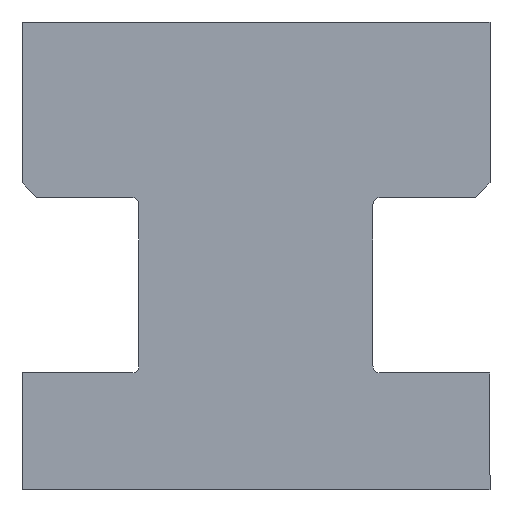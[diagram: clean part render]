
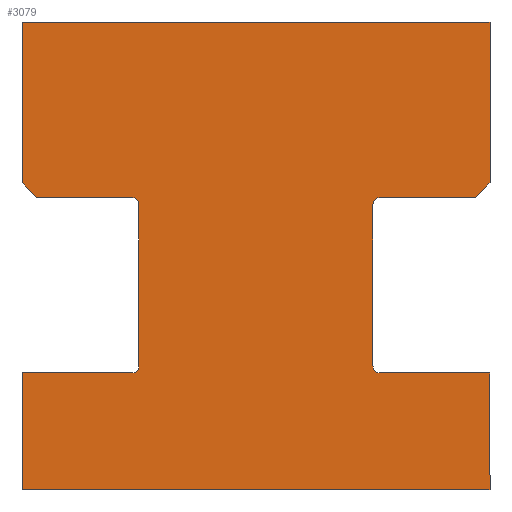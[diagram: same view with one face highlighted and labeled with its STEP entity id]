
A CAD part, front view. The second image highlights one B-rep face of the part: STEP entity #3079.
In plain terms, the highlighted planar face has unit normal (0, -1, 0).
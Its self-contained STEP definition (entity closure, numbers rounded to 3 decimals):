
#30 = CARTESIAN_POINT ( 'NONE',  ( -8., -40., 4. ) ) ;
#61 = LINE ( 'NONE', #2217, #1289 ) ;
#73 = CARTESIAN_POINT ( 'NONE',  ( 8., -40., 16. ) ) ;
#168 = LINE ( 'NONE', #4234, #2457 ) ;
#224 = ORIENTED_EDGE ( 'NONE', *, *, #443, .T. ) ;
#274 = DIRECTION ( 'NONE',  ( 0., 0., -1. ) ) ;
#281 = EDGE_CURVE ( 'NONE', #2041, #2152, #3352, .T. ) ;
#332 = VECTOR ( 'NONE', #1572, 1000. ) ;
#366 = EDGE_CURVE ( 'NONE', #2997, #3498, #3070, .T. ) ;
#418 = VECTOR ( 'NONE', #2425, 1000. ) ;
#427 = CARTESIAN_POINT ( 'NONE',  ( 8., -40., 4. ) ) ;
#431 = VERTEX_POINT ( 'NONE', #1586 ) ;
#443 = EDGE_CURVE ( 'NONE', #4101, #599, #5027, .T. ) ;
#464 = EDGE_CURVE ( 'NONE', #5421, #431, #6343, .T. ) ;
#481 = CARTESIAN_POINT ( 'NONE',  ( 4.25, -40., 9.75 ) ) ;
#542 = CARTESIAN_POINT ( 'NONE',  ( 8., -40., 10.5 ) ) ;
#548 = ORIENTED_EDGE ( 'NONE', *, *, #3443, .T. ) ;
#583 = VERTEX_POINT ( 'NONE', #6286 ) ;
#599 = VERTEX_POINT ( 'NONE', #794 ) ;
#603 = CARTESIAN_POINT ( 'NONE',  ( -8., -40., 4. ) ) ;
#724 = CARTESIAN_POINT ( 'NONE',  ( -8., -40., 0. ) ) ;
#794 = CARTESIAN_POINT ( 'NONE',  ( -8., -40., 10.5 ) ) ;
#796 = ORIENTED_EDGE ( 'NONE', *, *, #6504, .T. ) ;
#836 = VERTEX_POINT ( 'NONE', #542 ) ;
#898 = PLANE ( 'NONE',  #4036 ) ;
#939 = VERTEX_POINT ( 'NONE', #4830 ) ;
#942 = CARTESIAN_POINT ( 'NONE',  ( -4., -40., 9.75 ) ) ;
#1055 = EDGE_CURVE ( 'NONE', #431, #3094, #61, .T. ) ;
#1067 = CARTESIAN_POINT ( 'NONE',  ( -7.5, -40., 10. ) ) ;
#1092 = LINE ( 'NONE', #73, #5505 ) ;
#1181 = VECTOR ( 'NONE', #5906, 1000. ) ;
#1209 = CARTESIAN_POINT ( 'NONE',  ( 4.25, -40., 4. ) ) ;
#1232 = LINE ( 'NONE', #724, #5836 ) ;
#1289 = VECTOR ( 'NONE', #4624, 1000. ) ;
#1401 = CIRCLE ( 'NONE', #6555, 0.25 ) ;
#1435 = CARTESIAN_POINT ( 'NONE',  ( 7.5, -40., 10. ) ) ;
#1445 = DIRECTION ( 'NONE',  ( 0., 1., 0. ) ) ;
#1475 = CARTESIAN_POINT ( 'NONE',  ( 8., -40., 16. ) ) ;
#1495 = CARTESIAN_POINT ( 'NONE',  ( -4., -40., 4.25 ) ) ;
#1572 = DIRECTION ( 'NONE',  ( 0.707, 0., 0.707 ) ) ;
#1586 = CARTESIAN_POINT ( 'NONE',  ( 4.25, -40., 10. ) ) ;
#1593 = DIRECTION ( 'NONE',  ( 0., 0., 1. ) ) ;
#1607 = VECTOR ( 'NONE', #2471, 1000. ) ;
#1608 = CARTESIAN_POINT ( 'NONE',  ( 8., -40., 0. ) ) ;
#1618 = VECTOR ( 'NONE', #6104, 1000. ) ;
#1700 = EDGE_CURVE ( 'NONE', #599, #2041, #1894, .T. ) ;
#1730 = AXIS2_PLACEMENT_3D ( 'NONE', #4604, #1445, #3450 ) ;
#1738 = EDGE_LOOP ( 'NONE', ( #3696, #2523, #4688, #6102, #224, #5858, #3284, #2931, #4147, #5837, #548, #796, #3029, #3947, #4326, #3356, #4957, #4699 ) ) ;
#1828 = CARTESIAN_POINT ( 'NONE',  ( -7.5, -40., 10. ) ) ;
#1835 = VERTEX_POINT ( 'NONE', #603 ) ;
#1865 = CARTESIAN_POINT ( 'NONE',  ( -8., -40., 16. ) ) ;
#1894 = LINE ( 'NONE', #1828, #418 ) ;
#1951 = EDGE_CURVE ( 'NONE', #2157, #3516, #4336, .T. ) ;
#2041 = VERTEX_POINT ( 'NONE', #1067 ) ;
#2044 = LINE ( 'NONE', #3633, #332 ) ;
#2152 = VERTEX_POINT ( 'NONE', #5163 ) ;
#2157 = VERTEX_POINT ( 'NONE', #5958 ) ;
#2216 = EDGE_CURVE ( 'NONE', #3498, #5421, #4520, .T. ) ;
#2217 = CARTESIAN_POINT ( 'NONE',  ( 8., -40., 10. ) ) ;
#2354 = EDGE_CURVE ( 'NONE', #4588, #939, #1401, .T. ) ;
#2425 = DIRECTION ( 'NONE',  ( 0.707, 0., -0.707 ) ) ;
#2457 = VECTOR ( 'NONE', #5838, 1000. ) ;
#2471 = DIRECTION ( 'NONE',  ( -1., 0., 0. ) ) ;
#2523 = ORIENTED_EDGE ( 'NONE', *, *, #3523, .T. ) ;
#2774 = VECTOR ( 'NONE', #3983, 1000. ) ;
#2777 = EDGE_CURVE ( 'NONE', #3385, #4588, #168, .T. ) ;
#2783 = LINE ( 'NONE', #4197, #6478 ) ;
#2899 = CIRCLE ( 'NONE', #1730, 0.25 ) ;
#2931 = ORIENTED_EDGE ( 'NONE', *, *, #5294, .T. ) ;
#2978 = VECTOR ( 'NONE', #1593, 1000. ) ;
#2987 = CARTESIAN_POINT ( 'NONE',  ( 4., -40., 4.25 ) ) ;
#2997 = VERTEX_POINT ( 'NONE', #1209 ) ;
#3029 = ORIENTED_EDGE ( 'NONE', *, *, #3986, .T. ) ;
#3031 = CARTESIAN_POINT ( 'NONE',  ( 4., -40., 4.25 ) ) ;
#3041 = DIRECTION ( 'NONE',  ( 0., 0., 1. ) ) ;
#3046 = DIRECTION ( 'NONE',  ( 0., 1., 0. ) ) ;
#3070 = CIRCLE ( 'NONE', #6445, 0.25 ) ;
#3079 = ADVANCED_FACE ( 'NONE', ( #5953 ), #898, .F. ) ;
#3094 = VERTEX_POINT ( 'NONE', #1435 ) ;
#3145 = DIRECTION ( 'NONE',  ( 0., 0., -1. ) ) ;
#3250 = DIRECTION ( 'NONE',  ( 1., 0., 0. ) ) ;
#3284 = ORIENTED_EDGE ( 'NONE', *, *, #281, .T. ) ;
#3352 = LINE ( 'NONE', #5483, #2774 ) ;
#3356 = ORIENTED_EDGE ( 'NONE', *, *, #366, .T. ) ;
#3385 = VERTEX_POINT ( 'NONE', #942 ) ;
#3443 = EDGE_CURVE ( 'NONE', #939, #1835, #3598, .T. ) ;
#3450 = DIRECTION ( 'NONE',  ( 0., 0., -1. ) ) ;
#3498 = VERTEX_POINT ( 'NONE', #3031 ) ;
#3516 = VERTEX_POINT ( 'NONE', #1608 ) ;
#3523 = EDGE_CURVE ( 'NONE', #3094, #836, #2044, .T. ) ;
#3598 = LINE ( 'NONE', #30, #5406 ) ;
#3614 = CARTESIAN_POINT ( 'NONE',  ( 4., -40., 9.75 ) ) ;
#3633 = CARTESIAN_POINT ( 'NONE',  ( 8., -40., 10.5 ) ) ;
#3696 = ORIENTED_EDGE ( 'NONE', *, *, #1055, .T. ) ;
#3771 = EDGE_CURVE ( 'NONE', #2157, #2997, #6491, .T. ) ;
#3779 = VERTEX_POINT ( 'NONE', #1475 ) ;
#3870 = EDGE_CURVE ( 'NONE', #3779, #836, #1092, .T. ) ;
#3947 = ORIENTED_EDGE ( 'NONE', *, *, #1951, .F. ) ;
#3983 = DIRECTION ( 'NONE',  ( 1., 0., 0. ) ) ;
#3986 = EDGE_CURVE ( 'NONE', #583, #3516, #1232, .T. ) ;
#4036 = AXIS2_PLACEMENT_3D ( 'NONE', #1865, #5979, #4484 ) ;
#4101 = VERTEX_POINT ( 'NONE', #6349 ) ;
#4133 = VECTOR ( 'NONE', #5051, 1000. ) ;
#4147 = ORIENTED_EDGE ( 'NONE', *, *, #2777, .T. ) ;
#4197 = CARTESIAN_POINT ( 'NONE',  ( -8., -40., 16. ) ) ;
#4234 = CARTESIAN_POINT ( 'NONE',  ( -4., -40., 4.25 ) ) ;
#4326 = ORIENTED_EDGE ( 'NONE', *, *, #3771, .T. ) ;
#4336 = LINE ( 'NONE', #5008, #1181 ) ;
#4484 = DIRECTION ( 'NONE',  ( 0., 0., 1. ) ) ;
#4520 = LINE ( 'NONE', #2987, #2978 ) ;
#4588 = VERTEX_POINT ( 'NONE', #1495 ) ;
#4598 = LINE ( 'NONE', #6533, #1618 ) ;
#4604 = CARTESIAN_POINT ( 'NONE',  ( -4.25, -40., 9.75 ) ) ;
#4624 = DIRECTION ( 'NONE',  ( 1., 0., 0. ) ) ;
#4688 = ORIENTED_EDGE ( 'NONE', *, *, #3870, .F. ) ;
#4699 = ORIENTED_EDGE ( 'NONE', *, *, #464, .T. ) ;
#4830 = CARTESIAN_POINT ( 'NONE',  ( -4.25, -40., 4. ) ) ;
#4937 = DIRECTION ( 'NONE',  ( 0., 0., 1. ) ) ;
#4957 = ORIENTED_EDGE ( 'NONE', *, *, #2216, .T. ) ;
#4971 = AXIS2_PLACEMENT_3D ( 'NONE', #481, #3046, #3145 ) ;
#5008 = CARTESIAN_POINT ( 'NONE',  ( 8., -40., 16. ) ) ;
#5023 = CARTESIAN_POINT ( 'NONE',  ( -4.25, -40., 4.25 ) ) ;
#5027 = LINE ( 'NONE', #5555, #4133 ) ;
#5051 = DIRECTION ( 'NONE',  ( 0., 0., -1. ) ) ;
#5073 = DIRECTION ( 'NONE',  ( -1., 0., 0. ) ) ;
#5163 = CARTESIAN_POINT ( 'NONE',  ( -4.25, -40., 10. ) ) ;
#5294 = EDGE_CURVE ( 'NONE', #2152, #3385, #2899, .T. ) ;
#5406 = VECTOR ( 'NONE', #5073, 1000. ) ;
#5421 = VERTEX_POINT ( 'NONE', #3614 ) ;
#5483 = CARTESIAN_POINT ( 'NONE',  ( -8., -40., 10. ) ) ;
#5505 = VECTOR ( 'NONE', #6146, 1000. ) ;
#5555 = CARTESIAN_POINT ( 'NONE',  ( -8., -40., 16. ) ) ;
#5699 = EDGE_CURVE ( 'NONE', #4101, #3779, #4598, .T. ) ;
#5836 = VECTOR ( 'NONE', #3250, 1000. ) ;
#5837 = ORIENTED_EDGE ( 'NONE', *, *, #2354, .T. ) ;
#5838 = DIRECTION ( 'NONE',  ( 0., 0., -1. ) ) ;
#5858 = ORIENTED_EDGE ( 'NONE', *, *, #1700, .T. ) ;
#5895 = CARTESIAN_POINT ( 'NONE',  ( 4.25, -40., 4.25 ) ) ;
#5906 = DIRECTION ( 'NONE',  ( 0., 0., -1. ) ) ;
#5953 = FACE_OUTER_BOUND ( 'NONE', #1738, .T. ) ;
#5958 = CARTESIAN_POINT ( 'NONE',  ( 8., -40., 4. ) ) ;
#5979 = DIRECTION ( 'NONE',  ( 0., 1., 0. ) ) ;
#6037 = DIRECTION ( 'NONE',  ( 0., 1., 0. ) ) ;
#6102 = ORIENTED_EDGE ( 'NONE', *, *, #5699, .F. ) ;
#6104 = DIRECTION ( 'NONE',  ( 1., 0., 0. ) ) ;
#6146 = DIRECTION ( 'NONE',  ( 0., 0., -1. ) ) ;
#6286 = CARTESIAN_POINT ( 'NONE',  ( -8., -40., 0. ) ) ;
#6343 = CIRCLE ( 'NONE', #4971, 0.25 ) ;
#6349 = CARTESIAN_POINT ( 'NONE',  ( -8., -40., 16. ) ) ;
#6422 = DIRECTION ( 'NONE',  ( 0., 1., 0. ) ) ;
#6445 = AXIS2_PLACEMENT_3D ( 'NONE', #5895, #6422, #4937 ) ;
#6478 = VECTOR ( 'NONE', #274, 1000. ) ;
#6491 = LINE ( 'NONE', #427, #1607 ) ;
#6504 = EDGE_CURVE ( 'NONE', #1835, #583, #2783, .T. ) ;
#6533 = CARTESIAN_POINT ( 'NONE',  ( -8., -40., 16. ) ) ;
#6555 = AXIS2_PLACEMENT_3D ( 'NONE', #5023, #6037, #3041 ) ;
